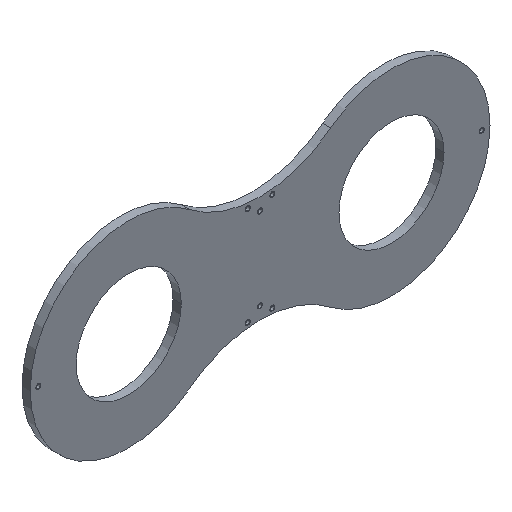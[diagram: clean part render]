
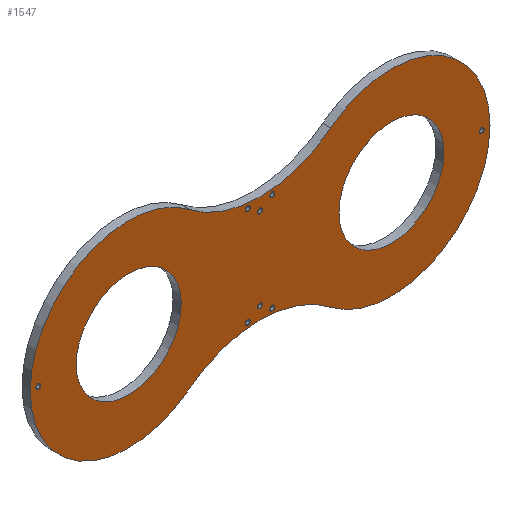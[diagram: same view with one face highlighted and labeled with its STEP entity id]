
A CAD part, isometric view. The second image highlights one B-rep face of the part: STEP entity #1547.
In plain terms, the highlighted planar face has unit normal (0, -1, 0).
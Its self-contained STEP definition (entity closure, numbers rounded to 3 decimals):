
#327=CARTESIAN_POINT('',(80.,0.,0.));
#328=DIRECTION('',(0.,1.,0.));
#329=DIRECTION('',(-0.615,0.,0.788));
#330=AXIS2_PLACEMENT_3D('',#327,#328,#329);
#336=CARTESIAN_POINT('',(0.,0.,-102.47));
#337=DIRECTION('',(0.,-1.,0.));
#338=DIRECTION('',(0.615,0.,0.788));
#339=AXIS2_PLACEMENT_3D('',#336,#337,#338);
#344=CARTESIAN_POINT('',(-80.,0.,0.));
#345=DIRECTION('',(0.,1.,0.));
#346=DIRECTION('',(0.615,0.,-0.788));
#347=AXIS2_PLACEMENT_3D('',#344,#345,#346);
#352=CARTESIAN_POINT('',(0.,0.,102.47));
#353=DIRECTION('',(0.,-1.,0.));
#354=DIRECTION('',(-0.615,0.,-0.788));
#355=AXIS2_PLACEMENT_3D('',#352,#353,#354);
#360=CARTESIAN_POINT('',(-80.,0.,0.));
#361=DIRECTION('',(0.,-1.,0.));
#362=DIRECTION('',(1.,0.,0.));
#363=AXIS2_PLACEMENT_3D('',#360,#361,#362);
#368=CARTESIAN_POINT('',(-80.,0.,0.));
#369=DIRECTION('',(0.,-1.,0.));
#370=DIRECTION('',(-1.,0.,0.));
#371=AXIS2_PLACEMENT_3D('',#368,#369,#370);
#376=CARTESIAN_POINT('',(80.,0.,0.));
#377=DIRECTION('',(0.,-1.,0.));
#378=DIRECTION('',(1.,0.,0.));
#379=AXIS2_PLACEMENT_3D('',#376,#377,#378);
#384=CARTESIAN_POINT('',(80.,0.,0.));
#385=DIRECTION('',(0.,-1.,0.));
#386=DIRECTION('',(-1.,0.,0.));
#387=AXIS2_PLACEMENT_3D('',#384,#385,#386);
#392=CARTESIAN_POINT('',(-135.,0.,0.));
#393=DIRECTION('',(0.,-1.,0.));
#394=DIRECTION('',(-1.,0.,0.));
#395=AXIS2_PLACEMENT_3D('',#392,#393,#394);
#400=CARTESIAN_POINT('',(-135.,0.,0.));
#401=DIRECTION('',(0.,-1.,0.));
#402=DIRECTION('',(1.,0.,0.));
#403=AXIS2_PLACEMENT_3D('',#400,#401,#402);
#408=CARTESIAN_POINT('',(135.,0.,0.));
#409=DIRECTION('',(0.,1.,0.));
#410=DIRECTION('',(1.,0.,0.));
#411=AXIS2_PLACEMENT_3D('',#408,#409,#410);
#416=CARTESIAN_POINT('',(135.,0.,0.));
#417=DIRECTION('',(0.,1.,0.));
#418=DIRECTION('',(-1.,0.,0.));
#419=AXIS2_PLACEMENT_3D('',#416,#417,#418);
#424=CARTESIAN_POINT('',(-7.5,0.,30.));
#425=DIRECTION('',(0.,1.,0.));
#426=DIRECTION('',(1.,0.,0.));
#427=AXIS2_PLACEMENT_3D('',#424,#425,#426);
#432=CARTESIAN_POINT('',(-7.5,0.,30.));
#433=DIRECTION('',(0.,1.,0.));
#434=DIRECTION('',(-1.,0.,0.));
#435=AXIS2_PLACEMENT_3D('',#432,#433,#434);
#440=CARTESIAN_POINT('',(-7.5,0.,-30.));
#441=DIRECTION('',(0.,-1.,0.));
#442=DIRECTION('',(1.,0.,0.));
#443=AXIS2_PLACEMENT_3D('',#440,#441,#442);
#448=CARTESIAN_POINT('',(-7.5,0.,-30.));
#449=DIRECTION('',(0.,-1.,0.));
#450=DIRECTION('',(-1.,0.,0.));
#451=AXIS2_PLACEMENT_3D('',#448,#449,#450);
#456=CARTESIAN_POINT('',(7.5,0.,30.));
#457=DIRECTION('',(0.,-1.,0.));
#458=DIRECTION('',(-1.,0.,0.));
#459=AXIS2_PLACEMENT_3D('',#456,#457,#458);
#464=CARTESIAN_POINT('',(7.5,0.,30.));
#465=DIRECTION('',(0.,-1.,0.));
#466=DIRECTION('',(1.,0.,0.));
#467=AXIS2_PLACEMENT_3D('',#464,#465,#466);
#472=CARTESIAN_POINT('',(7.5,0.,-30.));
#473=DIRECTION('',(0.,1.,0.));
#474=DIRECTION('',(-1.,0.,0.));
#475=AXIS2_PLACEMENT_3D('',#472,#473,#474);
#480=CARTESIAN_POINT('',(7.5,0.,-30.));
#481=DIRECTION('',(0.,1.,0.));
#482=DIRECTION('',(1.,0.,0.));
#483=AXIS2_PLACEMENT_3D('',#480,#481,#482);
#488=CARTESIAN_POINT('',(0.,0.,25.));
#489=DIRECTION('',(0.,1.,0.));
#490=DIRECTION('',(1.,0.,0.));
#491=AXIS2_PLACEMENT_3D('',#488,#489,#490);
#496=CARTESIAN_POINT('',(0.,0.,25.));
#497=DIRECTION('',(0.,1.,0.));
#498=DIRECTION('',(-1.,0.,0.));
#499=AXIS2_PLACEMENT_3D('',#496,#497,#498);
#504=CARTESIAN_POINT('',(0.,0.,-25.));
#505=DIRECTION('',(0.,-1.,0.));
#506=DIRECTION('',(1.,0.,0.));
#507=AXIS2_PLACEMENT_3D('',#504,#505,#506);
#512=CARTESIAN_POINT('',(0.,0.,-25.));
#513=DIRECTION('',(0.,-1.,0.));
#514=DIRECTION('',(-1.,0.,0.));
#515=AXIS2_PLACEMENT_3D('',#512,#513,#514);
#1304=CARTESIAN_POINT('',(43.077,0.,-47.294));
#1305=CARTESIAN_POINT('',(-43.077,0.,-47.294));
#1306=VERTEX_POINT('',#1304);
#1307=VERTEX_POINT('',#1305);
#1308=CARTESIAN_POINT('',(-43.077,0.,47.294));
#1309=VERTEX_POINT('',#1308);
#1316=CARTESIAN_POINT('',(-136.25,0.,0.));
#1317=CARTESIAN_POINT('',(-133.75,0.,0.));
#1318=VERTEX_POINT('',#1316);
#1319=VERTEX_POINT('',#1317);
#1324=CARTESIAN_POINT('',(43.077,0.,47.294));
#1325=VERTEX_POINT('',#1324);
#1326=CARTESIAN_POINT('',(-48.,0.,0.));
#1327=CARTESIAN_POINT('',(-112.,0.,0.));
#1328=VERTEX_POINT('',#1326);
#1329=VERTEX_POINT('',#1327);
#1330=CARTESIAN_POINT('',(112.,0.,0.));
#1331=CARTESIAN_POINT('',(48.,0.,0.));
#1332=VERTEX_POINT('',#1330);
#1333=VERTEX_POINT('',#1331);
#1409=CARTESIAN_POINT('',(136.25,0.,0.));
#1411=VERTEX_POINT('',#1409);
#1413=CARTESIAN_POINT('',(133.75,0.,0.));
#1415=VERTEX_POINT('',#1413);
#1416=CARTESIAN_POINT('',(-6.25,0.,30.));
#1417=CARTESIAN_POINT('',(-8.75,0.,30.));
#1418=VERTEX_POINT('',#1416);
#1419=VERTEX_POINT('',#1417);
#1424=CARTESIAN_POINT('',(-6.25,0.,-30.));
#1426=VERTEX_POINT('',#1424);
#1428=CARTESIAN_POINT('',(-8.75,0.,-30.));
#1430=VERTEX_POINT('',#1428);
#1432=CARTESIAN_POINT('',(6.25,0.,30.));
#1434=VERTEX_POINT('',#1432);
#1436=CARTESIAN_POINT('',(8.75,0.,30.));
#1438=VERTEX_POINT('',#1436);
#1440=CARTESIAN_POINT('',(6.25,0.,-30.));
#1442=VERTEX_POINT('',#1440);
#1444=CARTESIAN_POINT('',(8.75,0.,-30.));
#1446=VERTEX_POINT('',#1444);
#1452=CARTESIAN_POINT('',(1.25,0.,25.));
#1453=CARTESIAN_POINT('',(-1.25,0.,25.));
#1454=VERTEX_POINT('',#1452);
#1455=VERTEX_POINT('',#1453);
#1464=CARTESIAN_POINT('',(1.25,0.,-25.));
#1465=VERTEX_POINT('',#1464);
#1468=CARTESIAN_POINT('',(-1.25,0.,-25.));
#1469=VERTEX_POINT('',#1468);
#1472=CARTESIAN_POINT('',(0.,0.,0.));
#1473=DIRECTION('',(0.,1.,0.));
#1474=DIRECTION('',(0.,0.,-1.));
#1475=AXIS2_PLACEMENT_3D('',#1472,#1473,#1474);
#1476=PLANE('',#1475);
#1478=ORIENTED_EDGE('',*,*,#1477,.T.);
#1480=ORIENTED_EDGE('',*,*,#1479,.T.);
#1482=ORIENTED_EDGE('',*,*,#1481,.T.);
#1484=ORIENTED_EDGE('',*,*,#1483,.T.);
#1485=EDGE_LOOP('',(#1478,#1480,#1482,#1484));
#1486=FACE_OUTER_BOUND('',#1485,.F.);
#1488=ORIENTED_EDGE('',*,*,#1487,.T.);
#1490=ORIENTED_EDGE('',*,*,#1489,.T.);
#1491=EDGE_LOOP('',(#1488,#1490));
#1492=FACE_BOUND('',#1491,.F.);
#1494=ORIENTED_EDGE('',*,*,#1493,.T.);
#1496=ORIENTED_EDGE('',*,*,#1495,.T.);
#1497=EDGE_LOOP('',(#1494,#1496));
#1498=FACE_BOUND('',#1497,.F.);
#1500=ORIENTED_EDGE('',*,*,#1499,.T.);
#1502=ORIENTED_EDGE('',*,*,#1501,.T.);
#1503=EDGE_LOOP('',(#1500,#1502));
#1504=FACE_BOUND('',#1503,.F.);
#1506=ORIENTED_EDGE('',*,*,#1505,.F.);
#1508=ORIENTED_EDGE('',*,*,#1507,.F.);
#1509=EDGE_LOOP('',(#1506,#1508));
#1510=FACE_BOUND('',#1509,.F.);
#1512=ORIENTED_EDGE('',*,*,#1511,.F.);
#1514=ORIENTED_EDGE('',*,*,#1513,.F.);
#1515=EDGE_LOOP('',(#1512,#1514));
#1516=FACE_BOUND('',#1515,.F.);
#1518=ORIENTED_EDGE('',*,*,#1517,.T.);
#1520=ORIENTED_EDGE('',*,*,#1519,.T.);
#1521=EDGE_LOOP('',(#1518,#1520));
#1522=FACE_BOUND('',#1521,.F.);
#1524=ORIENTED_EDGE('',*,*,#1523,.T.);
#1526=ORIENTED_EDGE('',*,*,#1525,.T.);
#1527=EDGE_LOOP('',(#1524,#1526));
#1528=FACE_BOUND('',#1527,.F.);
#1530=ORIENTED_EDGE('',*,*,#1529,.F.);
#1532=ORIENTED_EDGE('',*,*,#1531,.F.);
#1533=EDGE_LOOP('',(#1530,#1532));
#1534=FACE_BOUND('',#1533,.F.);
#1536=ORIENTED_EDGE('',*,*,#1535,.F.);
#1538=ORIENTED_EDGE('',*,*,#1537,.F.);
#1539=EDGE_LOOP('',(#1536,#1538));
#1540=FACE_BOUND('',#1539,.F.);
#1542=ORIENTED_EDGE('',*,*,#1541,.T.);
#1544=ORIENTED_EDGE('',*,*,#1543,.T.);
#1545=EDGE_LOOP('',(#1542,#1544));
#1546=FACE_BOUND('',#1545,.F.);
#331=CIRCLE('',#330,60.);
#340=CIRCLE('',#339,70.);
#348=CIRCLE('',#347,60.);
#356=CIRCLE('',#355,70.);
#364=CIRCLE('',#363,32.);
#372=CIRCLE('',#371,32.);
#380=CIRCLE('',#379,32.);
#388=CIRCLE('',#387,32.);
#396=CIRCLE('',#395,1.25);
#404=CIRCLE('',#403,1.25);
#412=CIRCLE('',#411,1.25);
#420=CIRCLE('',#419,1.25);
#428=CIRCLE('',#427,1.25);
#436=CIRCLE('',#435,1.25);
#444=CIRCLE('',#443,1.25);
#452=CIRCLE('',#451,1.25);
#460=CIRCLE('',#459,1.25);
#468=CIRCLE('',#467,1.25);
#476=CIRCLE('',#475,1.25);
#484=CIRCLE('',#483,1.25);
#492=CIRCLE('',#491,1.25);
#500=CIRCLE('',#499,1.25);
#508=CIRCLE('',#507,1.25);
#516=CIRCLE('',#515,1.25);
#1477=EDGE_CURVE('',#1325,#1306,#331,.T.);
#1479=EDGE_CURVE('',#1306,#1307,#340,.T.);
#1481=EDGE_CURVE('',#1307,#1309,#348,.T.);
#1483=EDGE_CURVE('',#1309,#1325,#356,.T.);
#1487=EDGE_CURVE('',#1328,#1329,#364,.T.);
#1489=EDGE_CURVE('',#1329,#1328,#372,.T.);
#1493=EDGE_CURVE('',#1332,#1333,#380,.T.);
#1495=EDGE_CURVE('',#1333,#1332,#388,.T.);
#1499=EDGE_CURVE('',#1318,#1319,#396,.T.);
#1501=EDGE_CURVE('',#1319,#1318,#404,.T.);
#1505=EDGE_CURVE('',#1411,#1415,#412,.T.);
#1507=EDGE_CURVE('',#1415,#1411,#420,.T.);
#1511=EDGE_CURVE('',#1418,#1419,#428,.T.);
#1513=EDGE_CURVE('',#1419,#1418,#436,.T.);
#1517=EDGE_CURVE('',#1426,#1430,#444,.T.);
#1519=EDGE_CURVE('',#1430,#1426,#452,.T.);
#1523=EDGE_CURVE('',#1434,#1438,#460,.T.);
#1525=EDGE_CURVE('',#1438,#1434,#468,.T.);
#1529=EDGE_CURVE('',#1442,#1446,#476,.T.);
#1531=EDGE_CURVE('',#1446,#1442,#484,.T.);
#1535=EDGE_CURVE('',#1454,#1455,#492,.T.);
#1537=EDGE_CURVE('',#1455,#1454,#500,.T.);
#1541=EDGE_CURVE('',#1465,#1469,#508,.T.);
#1543=EDGE_CURVE('',#1469,#1465,#516,.T.);
#1547=ADVANCED_FACE('',(#1486,#1492,#1498,#1504,#1510,#1516,#1522,#1528,#1534,
#1540,#1546),#1476,.F.);
